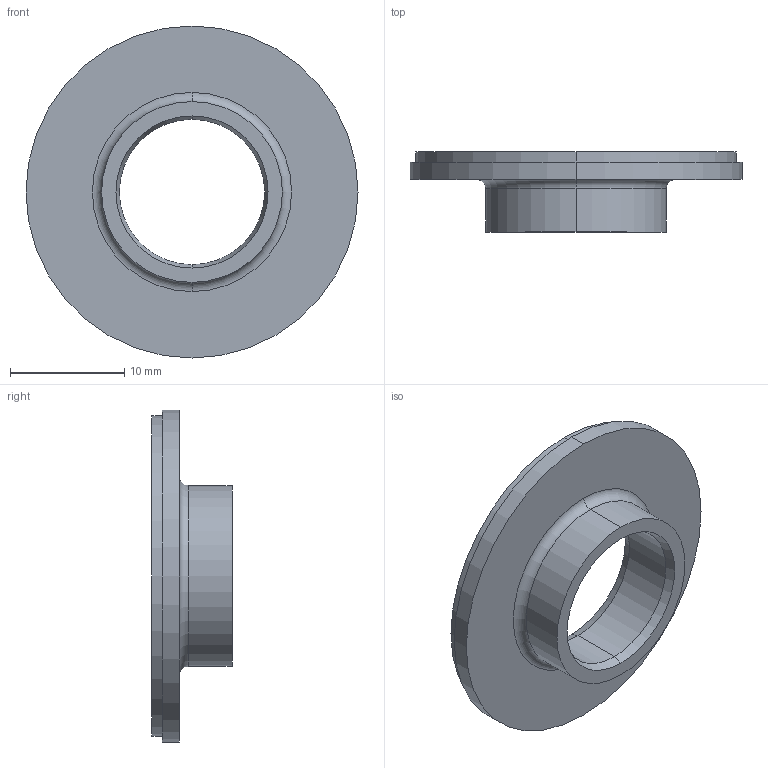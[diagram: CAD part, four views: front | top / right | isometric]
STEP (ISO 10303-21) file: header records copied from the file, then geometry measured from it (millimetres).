
FILE_DESCRIPTION (( 'STEP AP214' ), '1' );
FILE_NAME ('MRA029GP013DMN00.STEP', '2019-07-02T11:57:53', ( '' ), ( '' ), 'SwSTEP 2.0', 'SolidWorks 2016', '' );
FILE_SCHEMA (( 'AUTOMOTIVE_DESIGN' ));
Length unit declared in the file: millimetre
Products named in the file (3): MRA029GP013DMN00; MN01244; Prirobnica 29_12.7_6_std
Assembly tree (2 placements, depth 2):
  MRA029GP013DMN00
    Prirobnica 29_12.7_6_std
    MN01244
Bounding box: 29 x 7 x 29 mm (x, y, z)
Volume: 1388.9 mm3; surface area: 2380.1 mm2
Topology: 2 solids, 2 shells, 21 faces, 42 edges, 26 vertices
Faces by surface type: cylinder 10, plane 5, cone 4, torus 2
Entity records: 674 total; most frequent: DIRECTION 122, CARTESIAN_POINT 94, ORIENTED_EDGE 84, AXIS2_PLACEMENT_3D 54, EDGE_CURVE 42, CIRCLE 28, EDGE_LOOP 26, VERTEX_POINT 26
